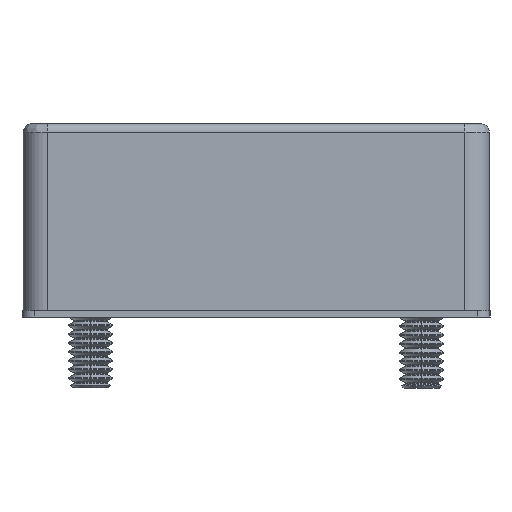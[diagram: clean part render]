
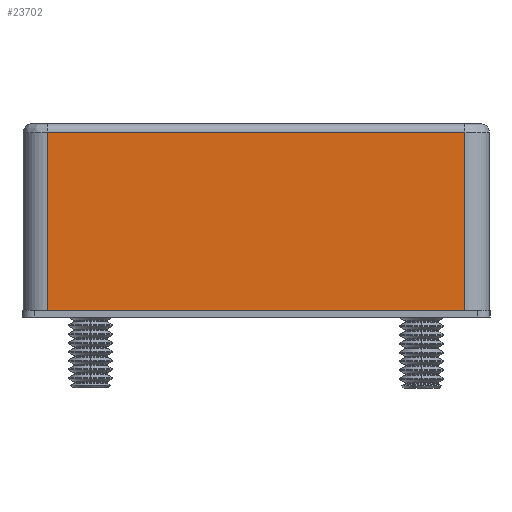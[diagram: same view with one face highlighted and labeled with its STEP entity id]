
A CAD part, left-side view. The second image highlights one B-rep face of the part: STEP entity #23702.
In plain terms, the highlighted planar face has unit normal (-1, 0, 0).
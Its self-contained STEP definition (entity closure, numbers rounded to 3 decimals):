
#23350 = VERTEX_POINT('',#23351);
#23351 = CARTESIAN_POINT('',(-10.6,-9.5,1.9));
#23387 = EDGE_CURVE('',#23350,#23388,#23390,.T.);
#23388 = VERTEX_POINT('',#23389);
#23389 = CARTESIAN_POINT('',(-10.6,9.5,1.9));
#23390 = LINE('',#23391,#23392);
#23391 = CARTESIAN_POINT('',(-10.6,9.5,1.9));
#23392 = VECTOR('',#23393,1.);
#23393 = DIRECTION('',(0.,1.,0.));
#23683 = VERTEX_POINT('',#23684);
#23684 = CARTESIAN_POINT('',(-10.6,-9.5,10.));
#23691 = EDGE_CURVE('',#23350,#23683,#23692,.T.);
#23692 = LINE('',#23693,#23694);
#23693 = CARTESIAN_POINT('',(-10.6,-9.5,1.5));
#23694 = VECTOR('',#23695,1.);
#23695 = DIRECTION('',(0.,0.,1.));
#23702 = ADVANCED_FACE('',(#23703),#23721,.T.);
#23703 = FACE_BOUND('',#23704,.T.);
#23704 = EDGE_LOOP('',(#23705,#23706,#23714,#23720));
#23705 = ORIENTED_EDGE('',*,*,#23691,.T.);
#23706 = ORIENTED_EDGE('',*,*,#23707,.T.);
#23707 = EDGE_CURVE('',#23683,#23708,#23710,.T.);
#23708 = VERTEX_POINT('',#23709);
#23709 = CARTESIAN_POINT('',(-10.6,9.5,10.));
#23710 = LINE('',#23711,#23712);
#23711 = CARTESIAN_POINT('',(-10.6,9.5,10.));
#23712 = VECTOR('',#23713,1.);
#23713 = DIRECTION('',(0.,1.,0.));
#23714 = ORIENTED_EDGE('',*,*,#23715,.T.);
#23715 = EDGE_CURVE('',#23708,#23388,#23716,.T.);
#23716 = LINE('',#23717,#23718);
#23717 = CARTESIAN_POINT('',(-10.6,9.5,1.5));
#23718 = VECTOR('',#23719,1.);
#23719 = DIRECTION('',(0.,0.,-1.));
#23720 = ORIENTED_EDGE('',*,*,#23387,.F.);
#23721 = PLANE('',#23722);
#23722 = AXIS2_PLACEMENT_3D('',#23723,#23724,#23725);
#23723 = CARTESIAN_POINT('',(-10.6,9.5,1.5));
#23724 = DIRECTION('',(-1.,0.,0.));
#23725 = DIRECTION('',(0.,-1.,0.));
